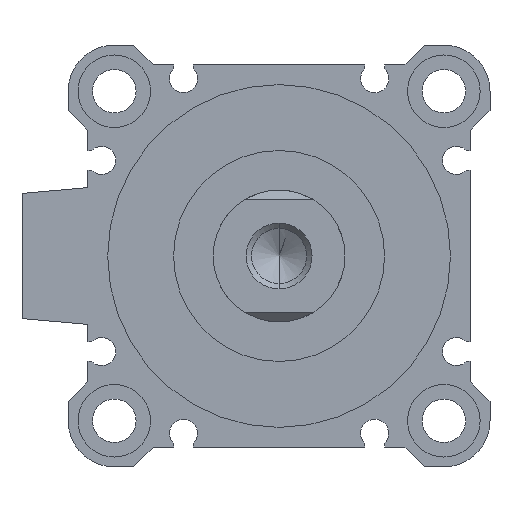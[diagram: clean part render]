
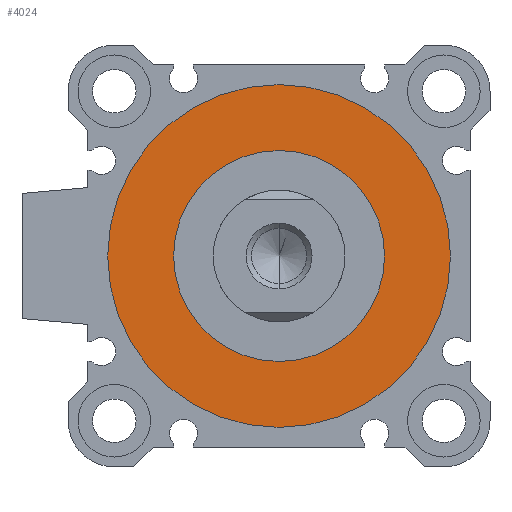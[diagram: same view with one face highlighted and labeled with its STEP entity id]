
A CAD part, left-side view. The second image highlights one B-rep face of the part: STEP entity #4024.
In plain terms, the highlighted planar face has unit normal (-1, 0, 0).
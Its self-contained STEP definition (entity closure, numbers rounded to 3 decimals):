
#3 = DIRECTION ( 'NONE',  ( 0., 0., -1. ) ) ;
#21 = CARTESIAN_POINT ( 'NONE',  ( 3., 0., -16. ) ) ;
#112 = EDGE_LOOP ( 'NONE', ( #2133, #1369 ) ) ;
#140 = AXIS2_PLACEMENT_3D ( 'NONE', #4649, #4263, #297 ) ;
#175 = DIRECTION ( 'NONE',  ( 1., 0., 0. ) ) ;
#290 = DIRECTION ( 'NONE',  ( 0., 0., -1. ) ) ;
#297 = DIRECTION ( 'NONE',  ( 0., 0., -1. ) ) ;
#463 = AXIS2_PLACEMENT_3D ( 'NONE', #4994, #4916, #4532 ) ;
#468 = VERTEX_POINT ( 'NONE', #4120 ) ;
#616 = VERTEX_POINT ( 'NONE', #697 ) ;
#697 = CARTESIAN_POINT ( 'NONE',  ( 3., 0., 16. ) ) ;
#817 = VERTEX_POINT ( 'NONE', #21 ) ;
#1089 = VERTEX_POINT ( 'NONE', #2128 ) ;
#1171 = CARTESIAN_POINT ( 'NONE',  ( 3., 0., 0. ) ) ;
#1220 = EDGE_CURVE ( 'NONE', #468, #1089, #4736, .T. ) ;
#1315 = AXIS2_PLACEMENT_3D ( 'NONE', #2855, #5013, #3 ) ;
#1318 = EDGE_CURVE ( 'NONE', #817, #616, #4118, .T. ) ;
#1369 = ORIENTED_EDGE ( 'NONE', *, *, #1318, .T. ) ;
#1400 = AXIS2_PLACEMENT_3D ( 'NONE', #1171, #3054, #290 ) ;
#1722 = DIRECTION ( 'NONE',  ( 0., 0., -1. ) ) ;
#1841 = EDGE_LOOP ( 'NONE', ( #3645, #3472 ) ) ;
#2128 = CARTESIAN_POINT ( 'NONE',  ( 3., 0., -26. ) ) ;
#2133 = ORIENTED_EDGE ( 'NONE', *, *, #3346, .T. ) ;
#2595 = FACE_BOUND ( 'NONE', #112, .T. ) ;
#2777 = CIRCLE ( 'NONE', #1400, 26. ) ;
#2855 = CARTESIAN_POINT ( 'NONE',  ( 3., 0., 0. ) ) ;
#2939 = AXIS2_PLACEMENT_3D ( 'NONE', #3656, #175, #1722 ) ;
#3054 = DIRECTION ( 'NONE',  ( 1., 0., 0. ) ) ;
#3346 = EDGE_CURVE ( 'NONE', #616, #817, #3514, .T. ) ;
#3472 = ORIENTED_EDGE ( 'NONE', *, *, #3564, .F. ) ;
#3514 = CIRCLE ( 'NONE', #1315, 16. ) ;
#3564 = EDGE_CURVE ( 'NONE', #1089, #468, #2777, .T. ) ;
#3645 = ORIENTED_EDGE ( 'NONE', *, *, #1220, .F. ) ;
#3656 = CARTESIAN_POINT ( 'NONE',  ( 3., 0., 0. ) ) ;
#3815 = PLANE ( 'NONE',  #463 ) ;
#4024 = ADVANCED_FACE ( 'NONE', ( #4225, #2595 ), #3815, .F. ) ;
#4118 = CIRCLE ( 'NONE', #140, 16. ) ;
#4120 = CARTESIAN_POINT ( 'NONE',  ( 3., 0., 26. ) ) ;
#4225 = FACE_OUTER_BOUND ( 'NONE', #1841, .T. ) ;
#4263 = DIRECTION ( 'NONE',  ( 1., 0., 0. ) ) ;
#4532 = DIRECTION ( 'NONE',  ( 0., 1., 0. ) ) ;
#4649 = CARTESIAN_POINT ( 'NONE',  ( 3., 0., 0. ) ) ;
#4736 = CIRCLE ( 'NONE', #2939, 26. ) ;
#4916 = DIRECTION ( 'NONE',  ( 1., 0., 0. ) ) ;
#4994 = CARTESIAN_POINT ( 'NONE',  ( 3., 0., 0. ) ) ;
#5013 = DIRECTION ( 'NONE',  ( 1., 0., 0. ) ) ;
